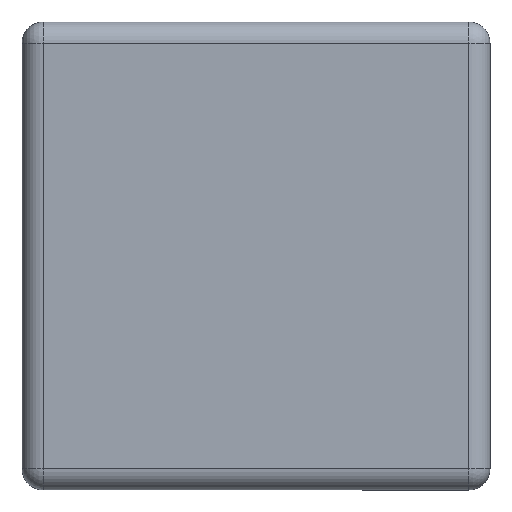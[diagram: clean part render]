
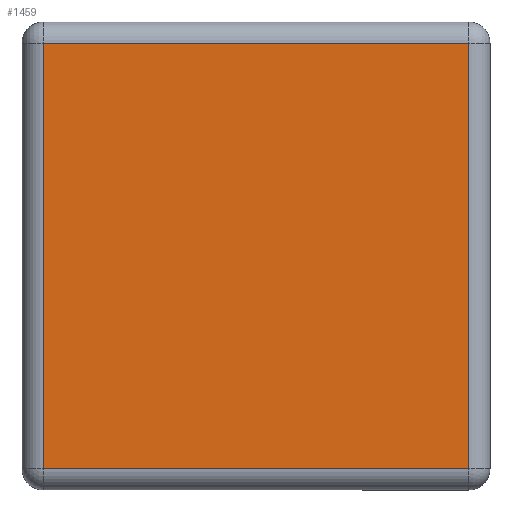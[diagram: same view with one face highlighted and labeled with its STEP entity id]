
A CAD part, left-side view. The second image highlights one B-rep face of the part: STEP entity #1459.
In plain terms, the highlighted planar face has unit normal (-1, 0, 0).
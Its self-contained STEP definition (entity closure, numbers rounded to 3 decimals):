
#144 = ORIENTED_EDGE ( 'NONE', *, *, #5201, .T. ) ;
#540 = DIRECTION ( 'NONE',  ( 0., 0., -1. ) ) ;
#641 = CARTESIAN_POINT ( 'NONE',  ( 0., -20., 20. ) ) ;
#682 = ORIENTED_EDGE ( 'NONE', *, *, #2641, .T. ) ;
#713 = LINE ( 'NONE', #4343, #1661 ) ;
#856 = VERTEX_POINT ( 'NONE', #4509 ) ;
#877 = VECTOR ( 'NONE', #1648, 1000. ) ;
#905 = CARTESIAN_POINT ( 'NONE',  ( 0., -20., 22. ) ) ;
#917 = LINE ( 'NONE', #1856, #3558 ) ;
#1412 = ORIENTED_EDGE ( 'NONE', *, *, #2103, .T. ) ;
#1414 = PLANE ( 'NONE',  #3986 ) ;
#1459 = ADVANCED_FACE ( 'NONE', ( #1951 ), #1414, .F. ) ;
#1648 = DIRECTION ( 'NONE',  ( 0., 1., 0. ) ) ;
#1661 = VECTOR ( 'NONE', #2124, 1000. ) ;
#1791 = EDGE_LOOP ( 'NONE', ( #1412, #4843, #144, #682 ) ) ;
#1856 = CARTESIAN_POINT ( 'NONE',  ( 0., -22., -20. ) ) ;
#1903 = LINE ( 'NONE', #2950, #877 ) ;
#1951 = FACE_OUTER_BOUND ( 'NONE', #1791, .T. ) ;
#2103 = EDGE_CURVE ( 'NONE', #5581, #856, #917, .T. ) ;
#2124 = DIRECTION ( 'NONE',  ( 0., 0., -1. ) ) ;
#2266 = VERTEX_POINT ( 'NONE', #641 ) ;
#2641 = EDGE_CURVE ( 'NONE', #3326, #5581, #713, .T. ) ;
#2797 = EDGE_CURVE ( 'NONE', #856, #2266, #3095, .T. ) ;
#2950 = CARTESIAN_POINT ( 'NONE',  ( 0., -22., 20. ) ) ;
#3095 = LINE ( 'NONE', #905, #3981 ) ;
#3104 = DIRECTION ( 'NONE',  ( 0., 0., 1. ) ) ;
#3127 = DIRECTION ( 'NONE',  ( 1., 0., 0. ) ) ;
#3326 = VERTEX_POINT ( 'NONE', #5220 ) ;
#3558 = VECTOR ( 'NONE', #4433, 1000. ) ;
#3981 = VECTOR ( 'NONE', #3104, 1000. ) ;
#3986 = AXIS2_PLACEMENT_3D ( 'NONE', #4026, #3127, #540 ) ;
#4026 = CARTESIAN_POINT ( 'NONE',  ( 0., -22., 22. ) ) ;
#4135 = CARTESIAN_POINT ( 'NONE',  ( 0., 20., -20. ) ) ;
#4343 = CARTESIAN_POINT ( 'NONE',  ( 0., 20., 22. ) ) ;
#4433 = DIRECTION ( 'NONE',  ( 0., -1., 0. ) ) ;
#4509 = CARTESIAN_POINT ( 'NONE',  ( 0., -20., -20. ) ) ;
#4843 = ORIENTED_EDGE ( 'NONE', *, *, #2797, .T. ) ;
#5201 = EDGE_CURVE ( 'NONE', #2266, #3326, #1903, .T. ) ;
#5220 = CARTESIAN_POINT ( 'NONE',  ( 0., 20., 20. ) ) ;
#5581 = VERTEX_POINT ( 'NONE', #4135 ) ;
